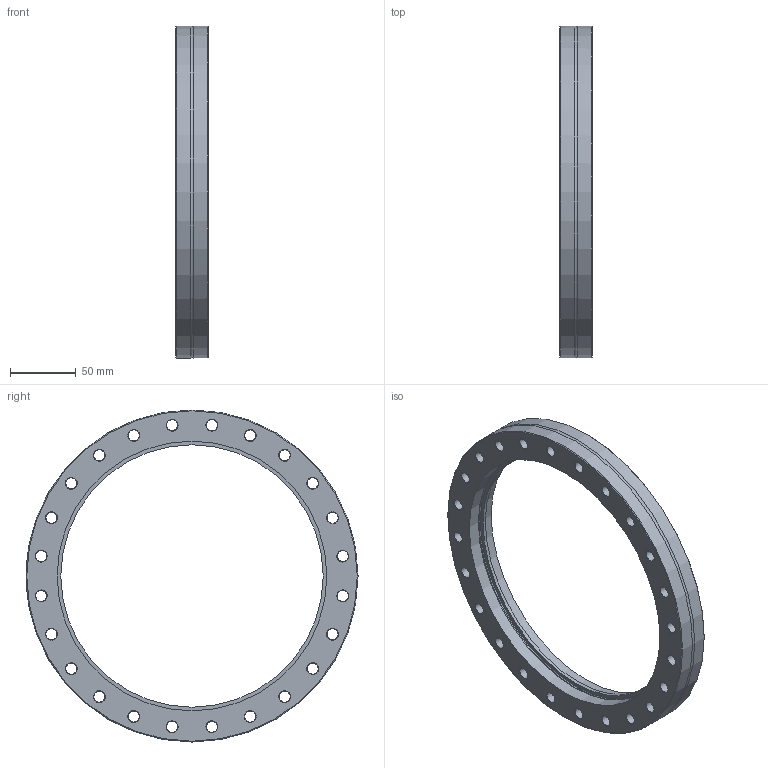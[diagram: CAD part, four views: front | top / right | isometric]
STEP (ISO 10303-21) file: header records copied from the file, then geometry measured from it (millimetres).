
FILE_DESCRIPTION((''),'2;1');
FILE_NAME('W:\13785_CF_Global_Fit_Umsetzung\037_Welding_Flange\M213-126.stp','2010-09-01T10:21:03',('KAA'),(''),'Autodesk Inventor 2011','Autodesk Inventor 2011','');
FILE_SCHEMA(('AUTOMOTIVE_DESIGN { 1 0 10303 214 1 1 1 1 }'));
Length unit declared in the file: millimetre
Products named in the file (1): 213-126
Bounding box: 24.5 x 253 x 253 mm (x, y, z)
Volume: 384258.6 mm3; surface area: 85893.9 mm2
Topology: 1 solids, 1 shells, 185 faces, 486 edges, 313 vertices
Faces by surface type: cone 55, plane 51, cylinder 39, bspline 35, torus 5
Full cylindrical faces by diameter (mm): 8.4 x24, 200 x1, 205 x1, 205.5 x1, 253 x2
Entity records: 14379 total; most frequent: CARTESIAN_POINT 10437, ORIENTED_EDGE 740, DIRECTION 696, EDGE_CURVE 370, EDGE_LOOP 333, AXIS2_PLACEMENT_3D 294, VERTEX_POINT 285, FACE_OUTER_BOUND 185
